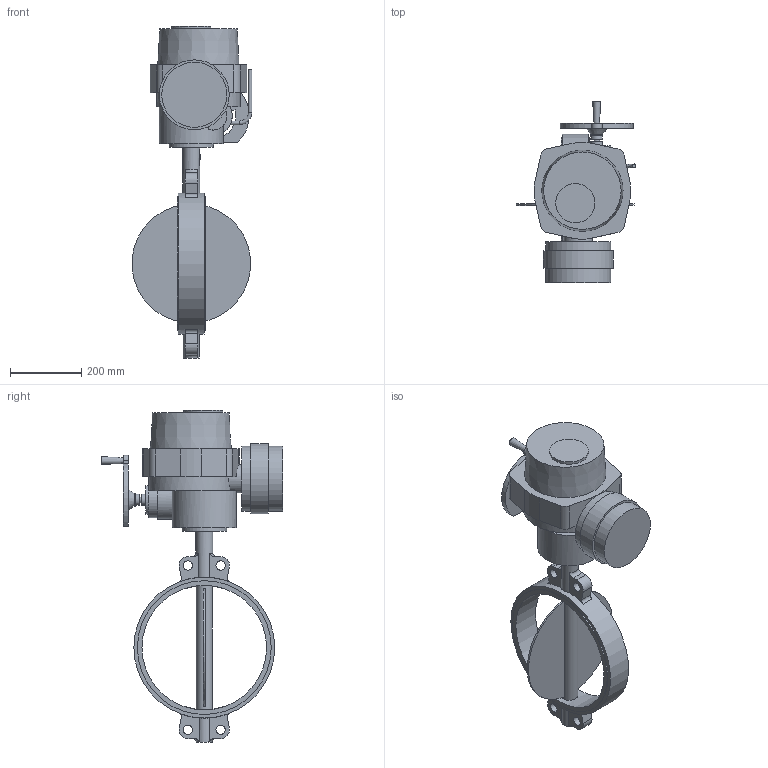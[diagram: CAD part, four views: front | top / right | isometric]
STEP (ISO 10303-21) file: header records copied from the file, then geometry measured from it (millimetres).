
FILE_DESCRIPTION(('STEP AP203'), '1');
FILE_NAME('青蜮铕 017W.Y_DN350_PN16_QT.A 120(F10)', '', ('UNSPECIFIED'), ('UNSPECIFIED'), 'ASCON STEP Converter 1.6', 'ASCON Math Kernel', '');
FILE_SCHEMA(('CONFIG_CONTROL_DESIGN'));
Length unit declared in the file: millimetre
Bounding box: 336.07 x 509 x 932 mm (x, y, z)
Volume: 21604626.5 mm3; surface area: 1080134.1 mm2
Topology: 1 solids, 1 shells, 182 faces, 418 edges, 275 vertices
Faces by surface type: plane 98, cylinder 76, torus 5, cone 3
Full cylindrical faces by diameter (mm): 10 x6, 12 x4, 14 x4, 16 x1, 26 x4, 32 x2, 35 x1, 45 x1, 47 x1, 80 x2, 100 x1, 110 x1, 125 x1, 180 x1, 183 x2, 196 x1, 350 x1, 375.6 x2, 395.6 x1
Entity records: 8395 total; most frequent: CARTESIAN_POINT 2775, DIRECTION 893, ORIENTED_EDGE 754, EDGE_CURVE 377, AXIS2_PLACEMENT_3D 363, EDGE_LOOP 278, VERTEX_POINT 275, FACE_BOUND 200
